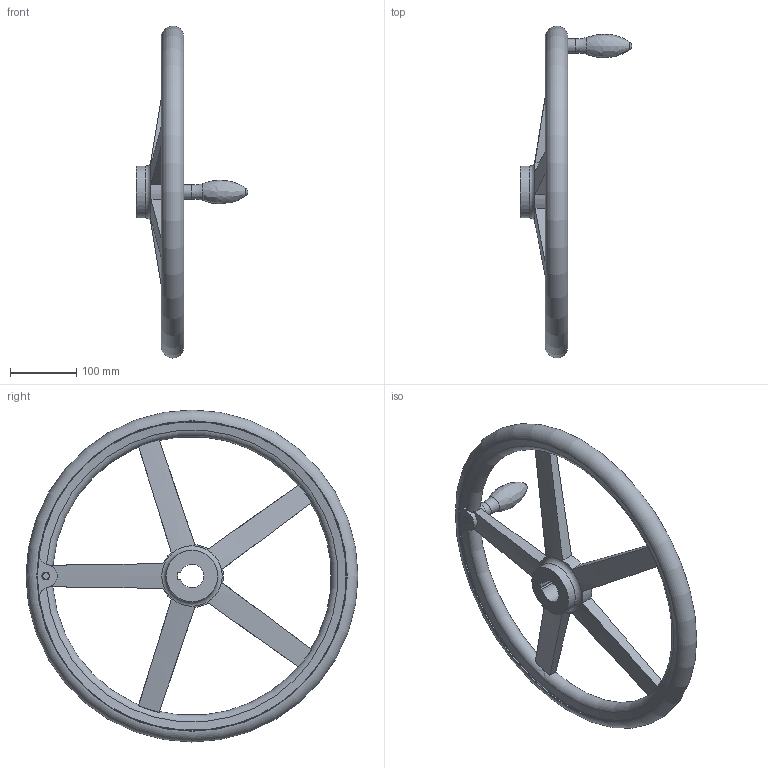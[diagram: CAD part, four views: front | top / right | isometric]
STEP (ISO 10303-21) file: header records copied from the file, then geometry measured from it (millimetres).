
FILE_DESCRIPTION( ( 'STEP AP203' ), '1' );
FILE_NAME( 'C:/Temp/Ganter_Step_05_03_2020/data/1_3/din_950/din_950_k/din_950_k_f/Handwheel DIN 950-GG-500-K36-F.stp', '2020-03-05T10:31:28', ( 'License CC BY-ND 4.0' ), ( 'CADENAS' ), ' ', 'PARTsolutions', ' ' );
FILE_SCHEMA( ( 'CONFIG_CONTROL_DESIGN' ) );
Length unit declared in the file: millimetre
Products named in the file (1): _Handwheel DIN 950-GG-500-K36-F
Bounding box: 168.5 x 499.98 x 499.98 mm (x, y, z)
Volume: 2143681.2 mm3; surface area: 288555.1 mm2
Topology: 1 solids, 1 shells, 66 faces, 196 edges, 127 vertices
Faces by surface type: torus 21, cylinder 20, plane 18, cone 5, sphere 1, bspline 1
Full cylindrical faces by diameter (mm): 12 x1, 21.8 x1, 78 x2, 466 x2
Entity records: 2669 total; most frequent: CARTESIAN_POINT 1042, ORIENTED_EDGE 338, DIRECTION 300, EDGE_CURVE 169, AXIS2_PLACEMENT_3D 137, VERTEX_POINT 121, EDGE_LOOP 92, FACE_OUTER_BOUND 81
